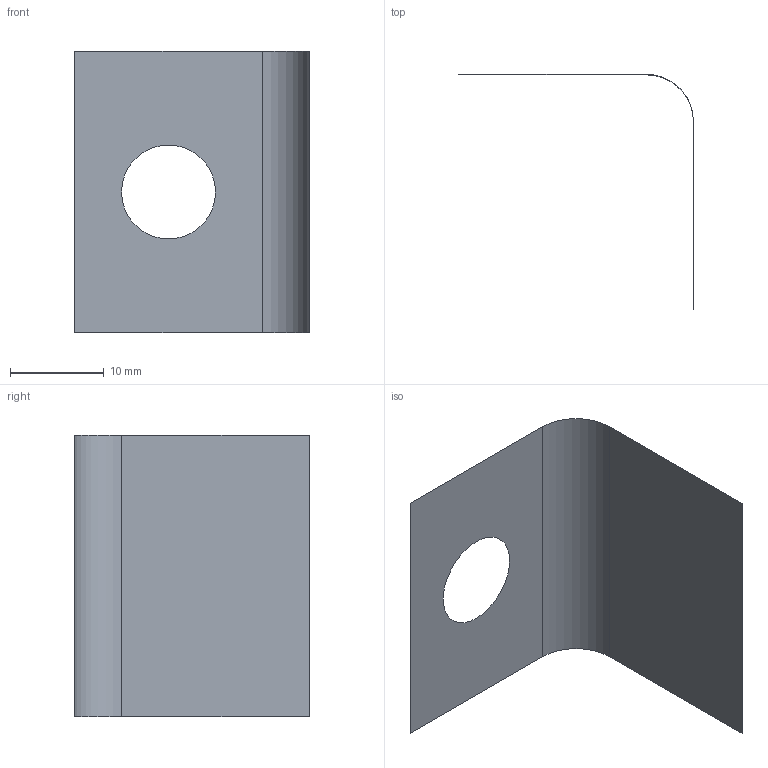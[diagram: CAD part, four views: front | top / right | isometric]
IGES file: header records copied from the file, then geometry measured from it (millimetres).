
Start section: DesignModeler IGES Output Version 5.3
Global section: file name: NoName; native system:  By UGS Corp.; preprocessor: XPlus GENERIC/IGES 3.0; author: cadcim; organization:  ; date: 20120227.095054; units: metre
Bounding box: 25 x 25 x 30 mm (x, y, z)
Surface area: 1357.1 mm2 (no closed solid volume)
Topology: 0 solids, 0 shells, 3 faces, 14 edges, 14 vertices
Faces by surface type: extrusion 2, revolution 1
